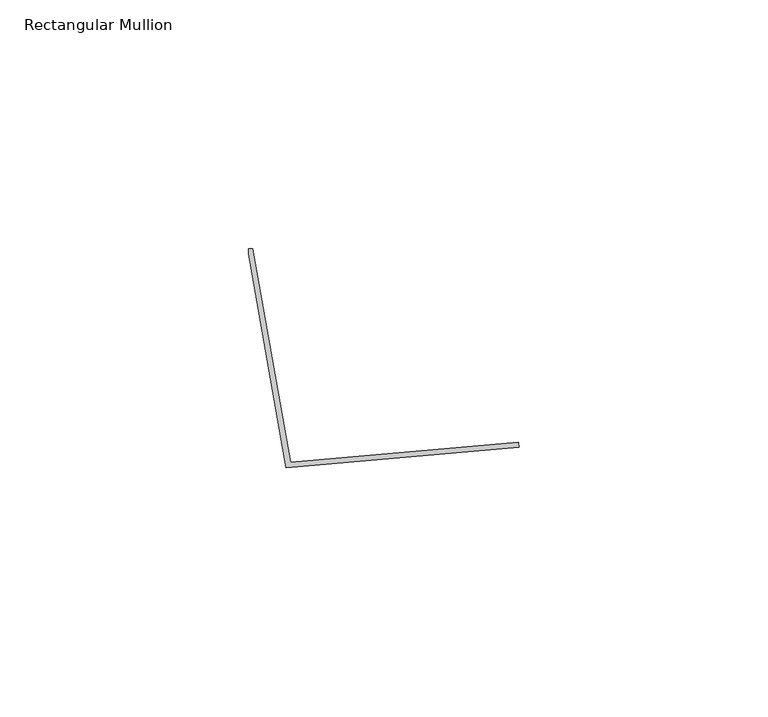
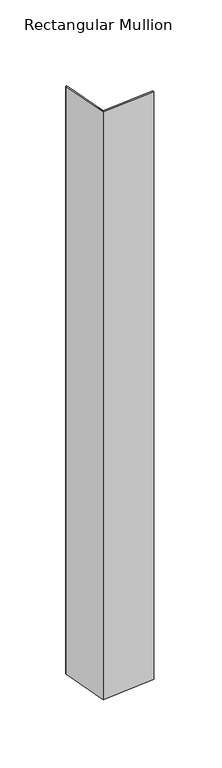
"""IFC4 building model written with IfcOpenShell, lengths in millimetres: member geometry, Rectangular Mullion : CD_NINELINE_Batten Start."""

from ifc_helpers import new_model, si_unit, frame, origin, place, context, project, spatial, polyline, outline, extrude, source, transform, mapped, element, save


def rectangular_mullion_ffc48b18(model_context):
    return source(origin(), model_context, "Body", "SweptSolid", [
        extrude(outline(polyline([(-54.4029206, -0.9999629), (-54.4029206, 3.78e-05), (-53.5638148, 3.78e-05), (-45.9954846, -42.9239479), (-0.0871484, -38.9078303), (0.0, -39.9040256), (-46.821181, -44.0), (-54.4029206, -0.9999629)])), frame((0.0, 0.0, -547.0), z_axis=(0.0, 0.0, 1.0), x_axis=(1.0, 0.0, 0.0)), (0.0, 0.0, 1.0), 547.0),
    ])


if __name__ == "__main__":
    model = new_model("IFC4")
    model_context = context("Model", 3, world=origin())
    ifc_project = project(units=[si_unit("LENGTHUNIT", "METRE", prefix="MILLI")], contexts=[model_context])
    site = spatial("IfcSite", under=ifc_project)
    building = spatial("IfcBuilding", under=site)
    placement = place(None, origin())
    rectangular_mullion_shape = rectangular_mullion_ffc48b18(model_context)
    element("IfcMember", 1, ObjectType="Rectangular Mullion : CD_NINELINE_Batten Start", at=placement, inside=building, context=model_context, shape_type="MappedRepresentation", body=[
        mapped(rectangular_mullion_shape, transform((0.0, 0.0, 0.0), x_axis=(1.0, 0.0, 0.0), y_axis=(0.0, 1.0, 0.0), z_axis=(0.0, 0.0, 1.0))),
    ])
    save(model, "model.ifc")
